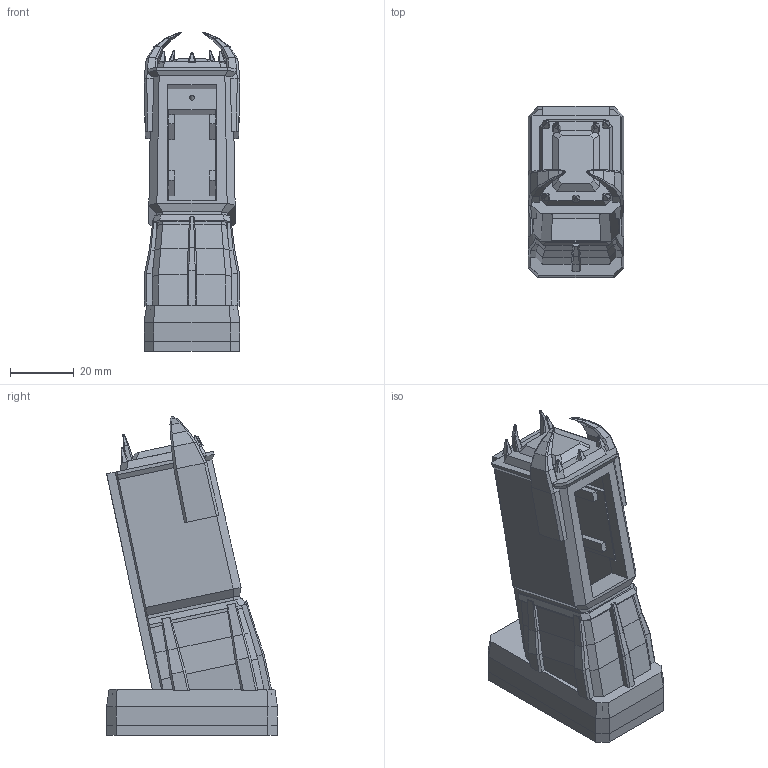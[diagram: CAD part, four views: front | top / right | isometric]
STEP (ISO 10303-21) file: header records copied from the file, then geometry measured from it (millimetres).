
FILE_DESCRIPTION(('Open CASCADE Model'),'2;1');
FILE_NAME('Open CASCADE Shape Model','2026-11-18T20:35:57',('Author'),( 'Open CASCADE'),'Open CASCADE STEP processor 7.9','Open CASCADE 7.9' ,'Unknown');
FILE_SCHEMA(('AUTOMOTIVE_DESIGN { 1 0 10303 214 1 1 1 1 }'));
Length unit declared in the file: millimetre
Products named in the file (4): Sauron_dongle; tower_shell; base_tray; rear_cover
Assembly tree (3 placements, depth 2):
  Sauron_dongle
    tower_shell
    base_tray
    rear_cover
Bounding box: 30 x 53.5 x 99.86 mm (x, y, z)
Volume: 43545.1 mm3; surface area: 30629.8 mm2
Topology: 3 solids, 3 shells, 544 faces, 1383 edges, 862 vertices
Faces by surface type: bspline 286, plane 236, cylinder 22
Full cylindrical faces by diameter (mm): 1.6 x6, 2.4 x6, 4 x6
Entity records: 34211 total; most frequent: CARTESIAN_POINT 9739, DIRECTION 3187, ORIENTED_EDGE 2766, PCURVE 2766, DEFINITIONAL_REPRESENTATION 2766, LINE 2545, VECTOR 2545, B_SPLINE_CURVE_WITH_KNOTS 1516
